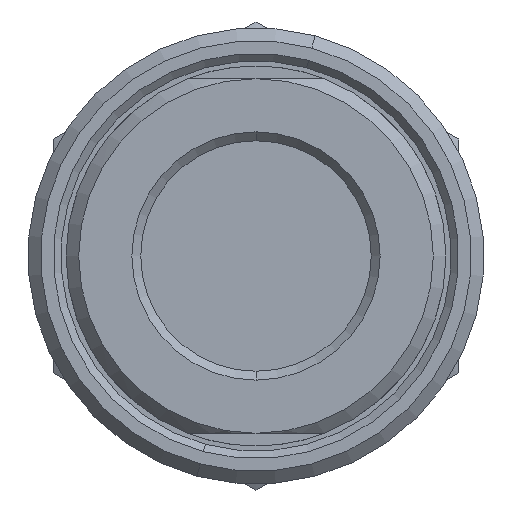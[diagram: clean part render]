
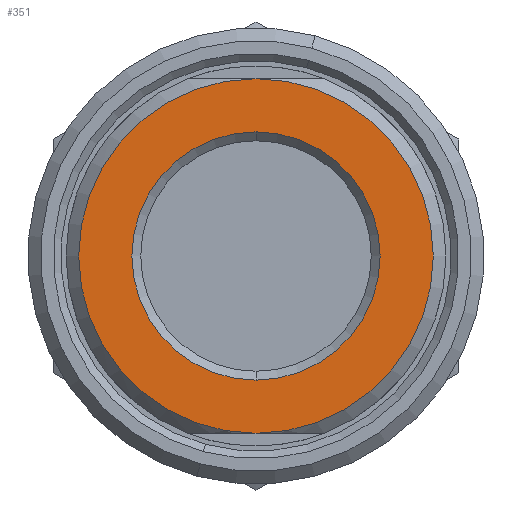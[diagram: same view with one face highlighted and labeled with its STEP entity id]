
A CAD part, front view. The second image highlights one B-rep face of the part: STEP entity #351.
In plain terms, the highlighted planar face has unit normal (0, -1, 0).
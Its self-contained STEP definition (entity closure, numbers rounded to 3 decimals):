
#8 = EDGE_LOOP ( 'NONE', ( #74, #75 ) ) ;
#18 = EDGE_LOOP ( 'NONE', ( #76, #77 ) ) ;
#74 = ORIENTED_EDGE ( 'NONE', *, *, #2815, .T. ) ;
#75 = ORIENTED_EDGE ( 'NONE', *, *, #2801, .T. ) ;
#76 = ORIENTED_EDGE ( 'NONE', *, *, #2774, .T. ) ;
#77 = ORIENTED_EDGE ( 'NONE', *, *, #2816, .T. ) ;
#297 = AXIS2_PLACEMENT_3D ( 'NONE', #1957, #1958, #1959 ) ;
#303 = AXIS2_PLACEMENT_3D ( 'NONE', #2364, #2365, #2366 ) ;
#307 = AXIS2_PLACEMENT_3D ( 'NONE', #2393, #2394, #2395 ) ;
#308 = AXIS2_PLACEMENT_3D ( 'NONE', #2396, #2397, #2398 ) ;
#351 = ADVANCED_FACE ( 'NONE', ( #3400, #3404 ), #1585, .T. ) ;
#945 = CIRCLE ( 'NONE', #297, 4.9 ) ;
#964 = CIRCLE ( 'NONE', #303, 7. ) ;
#966 = CIRCLE ( 'NONE', #308, 4.9 ) ;
#975 = CIRCLE ( 'NONE', #307, 7. ) ;
#1461 = CARTESIAN_POINT ( 'NONE',  ( 0., 0., -7. ) ) ;
#1473 = CARTESIAN_POINT ( 'NONE',  ( 0., 0., 7. ) ) ;
#1485 = CARTESIAN_POINT ( 'NONE',  ( 0., 0., 4.9 ) ) ;
#1494 = CARTESIAN_POINT ( 'NONE',  ( 0., 0., -4.9 ) ) ;
#1585 = PLANE ( 'NONE',  #2932 ) ;
#1592 = CARTESIAN_POINT ( 'NONE',  ( 0., 0., 0. ) ) ;
#1593 = DIRECTION ( 'NONE',  ( 0., -1., 0. ) ) ;
#1594 = DIRECTION ( 'NONE',  ( 0., 0., -1. ) ) ;
#1957 = CARTESIAN_POINT ( 'NONE',  ( 0., 0., 0. ) ) ;
#1958 = DIRECTION ( 'NONE',  ( 0., 1., 0. ) ) ;
#1959 = DIRECTION ( 'NONE',  ( 0., 0., 1. ) ) ;
#2139 = VERTEX_POINT ( 'NONE', #1461 ) ;
#2151 = VERTEX_POINT ( 'NONE', #1473 ) ;
#2163 = VERTEX_POINT ( 'NONE', #1485 ) ;
#2172 = VERTEX_POINT ( 'NONE', #1494 ) ;
#2364 = CARTESIAN_POINT ( 'NONE',  ( 0., 0., 0. ) ) ;
#2365 = DIRECTION ( 'NONE',  ( 0., -1., 0. ) ) ;
#2366 = DIRECTION ( 'NONE',  ( 0., 0., -1. ) ) ;
#2393 = CARTESIAN_POINT ( 'NONE',  ( 0., 0., 0. ) ) ;
#2394 = DIRECTION ( 'NONE',  ( 0., -1., 0. ) ) ;
#2395 = DIRECTION ( 'NONE',  ( 0., 0., -1. ) ) ;
#2396 = CARTESIAN_POINT ( 'NONE',  ( 0., 0., 0. ) ) ;
#2397 = DIRECTION ( 'NONE',  ( 0., 1., 0. ) ) ;
#2398 = DIRECTION ( 'NONE',  ( 0., 0., 1. ) ) ;
#2774 = EDGE_CURVE ( 'NONE', #2172, #2163, #945, .T. ) ;
#2801 = EDGE_CURVE ( 'NONE', #2139, #2151, #964, .T. ) ;
#2815 = EDGE_CURVE ( 'NONE', #2151, #2139, #975, .T. ) ;
#2816 = EDGE_CURVE ( 'NONE', #2163, #2172, #966, .T. ) ;
#2932 = AXIS2_PLACEMENT_3D ( 'NONE', #1592, #1593, #1594 ) ;
#3400 = FACE_OUTER_BOUND ( 'NONE', #8, .T. ) ;
#3404 = FACE_BOUND ( 'NONE', #18, .T. ) ;
